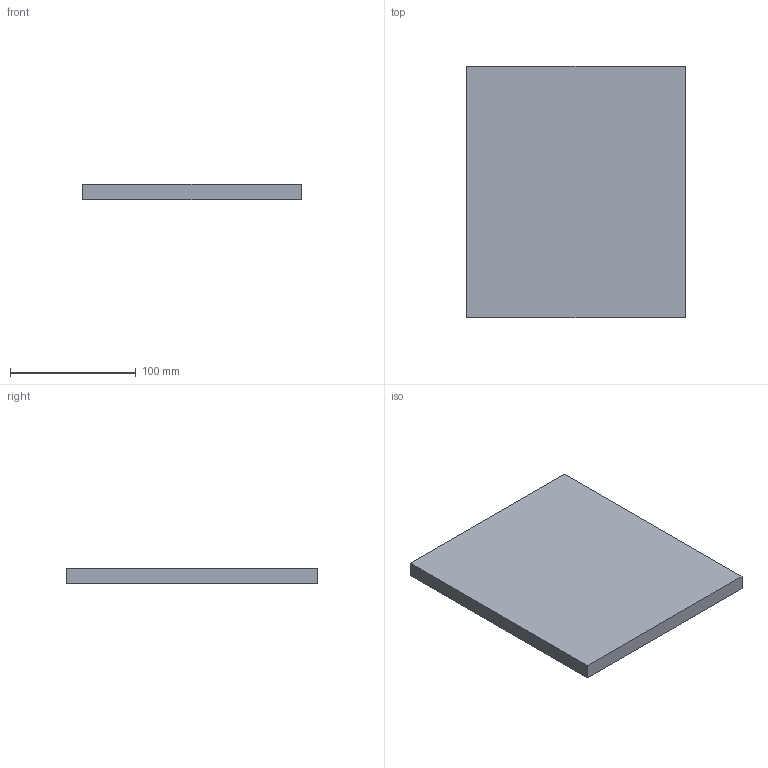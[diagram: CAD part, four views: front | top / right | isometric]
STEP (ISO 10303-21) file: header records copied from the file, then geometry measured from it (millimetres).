
FILE_DESCRIPTION(('Open CASCADE Model'),'2;1');
FILE_NAME('Open CASCADE Shape Model','2026-10-15T15:10:04',('Author'),( 'Open CASCADE'),'Open CASCADE STEP processor 8.0','Open CASCADE 8.0' ,'Unknown');
FILE_SCHEMA(('AUTOMOTIVE_DESIGN { 1 0 10303 214 1 1 1 1 }'));
Length unit declared in the file: millimetre
Products named in the file (1): U02_COLLAR_174x200x12_P05 53
Bounding box: 174 x 200 x 12 mm (x, y, z)
Volume: 417600 mm3; surface area: 78576 mm2
Topology: 1 solids, 1 shells, 6 faces, 12 edges, 8 vertices
Faces by surface type: plane 6
Entity records: 322 total; most frequent: CARTESIAN_POINT 51, DIRECTION 50, LINE 36, VECTOR 36, ORIENTED_EDGE 24, PCURVE 24, DEFINITIONAL_REPRESENTATION 24, EDGE_CURVE 12
